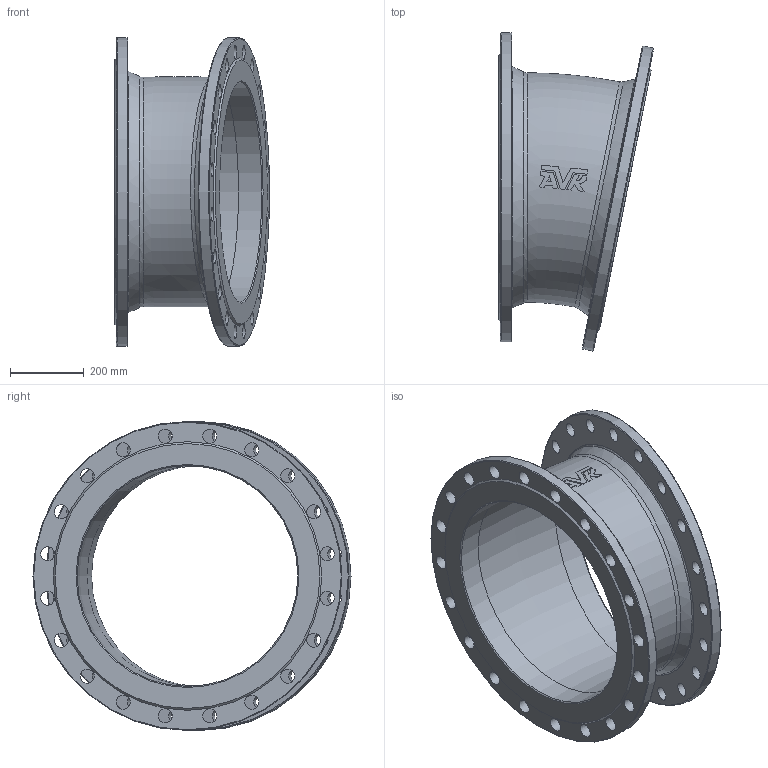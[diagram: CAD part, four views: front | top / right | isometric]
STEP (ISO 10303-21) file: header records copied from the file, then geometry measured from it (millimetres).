
FILE_DESCRIPTION (( 'STEP AP203' ), '1' );
FILE_NAME ('O_712_0110_DN600_1X_REV01.step', '2024-08-15T09:14:07', ( '' ), ( '' ), 'SwSTEP 2.0', 'SolidWorks 2022', '' );
FILE_SCHEMA (( 'CONFIG_CONTROL_DESIGN' ));
Length unit declared in the file: millimetre
Products named in the file (1): O_712_0110_DN600_1X_REV01
Bounding box: 421.3 x 864.51 x 840 mm (x, y, z)
Volume: 24320724.3 mm3; surface area: 2397057.1 mm2
Topology: 1 solids, 1 shells, 107 faces, 323 edges, 226 vertices
Faces by surface type: cylinder 46, plane 41, torus 12, cone 6, bspline 2
Full cylindrical faces by diameter (mm): 38 x40, 600 x2, 840 x2
Entity records: 5470 total; most frequent: CARTESIAN_POINT 2917, DIRECTION 453, ORIENTED_EDGE 434, EDGE_LOOP 257, EDGE_CURVE 217, AXIS2_PLACEMENT_3D 208, VERTEX_POINT 180, FACE_OUTER_BOUND 161
